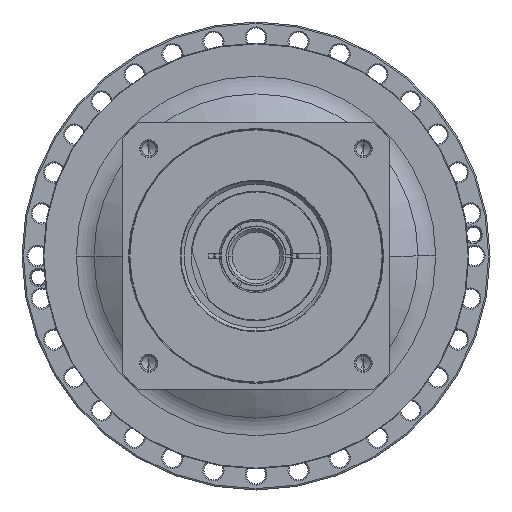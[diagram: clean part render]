
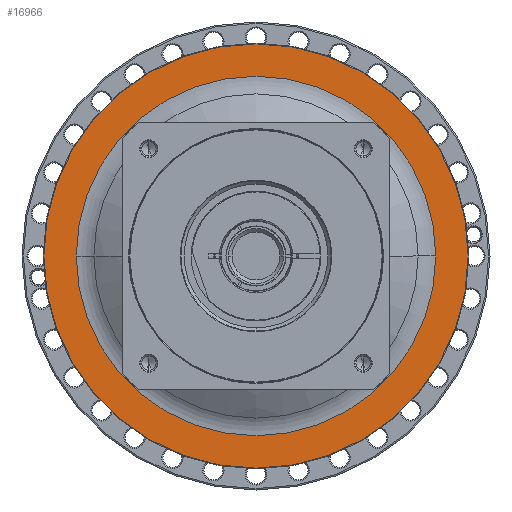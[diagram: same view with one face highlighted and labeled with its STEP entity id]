
A CAD part, left-side view. The second image highlights one B-rep face of the part: STEP entity #16966.
In plain terms, the highlighted planar face has unit normal (-1, 0, 0) as drawn and (1, 0, 0) by its records, which use the part's own axes.
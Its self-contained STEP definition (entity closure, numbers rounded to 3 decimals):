
#16397=CARTESIAN_POINT('',(-25.,0.,0.));
#16398=DIRECTION('',(-1.,0.,0.));
#16399=DIRECTION('',(0.,-1.,0.));
#16400=AXIS2_PLACEMENT_3D('',#16397,#16398,#16399);
#16402=CARTESIAN_POINT('',(-25.,0.,0.));
#16403=DIRECTION('',(-1.,0.,0.));
#16404=DIRECTION('',(0.,1.,0.));
#16405=AXIS2_PLACEMENT_3D('',#16402,#16403,#16404);
#16407=CARTESIAN_POINT('',(-25.,0.,0.));
#16408=DIRECTION('',(1.,0.,0.));
#16409=DIRECTION('',(0.,1.,0.));
#16410=AXIS2_PLACEMENT_3D('',#16407,#16408,#16409);
#16417=CARTESIAN_POINT('',(-25.,0.,0.));
#16418=DIRECTION('',(-1.,0.,0.));
#16419=DIRECTION('',(0.,1.,0.));
#16420=AXIS2_PLACEMENT_3D('',#16417,#16418,#16419);
#16521=CARTESIAN_POINT('',(-25.,-150.5,0.));
#16522=CARTESIAN_POINT('',(-25.,150.5,0.));
#16523=VERTEX_POINT('',#16521);
#16524=VERTEX_POINT('',#16522);
#16549=CARTESIAN_POINT('',(-25.,127.5,0.));
#16551=VERTEX_POINT('',#16549);
#16553=CARTESIAN_POINT('',(-25.,-127.5,0.));
#16555=VERTEX_POINT('',#16553);
#16951=CARTESIAN_POINT('',(-25.,0.,0.));
#16952=DIRECTION('',(1.,0.,0.));
#16953=DIRECTION('',(0.,-1.,0.));
#16954=AXIS2_PLACEMENT_3D('',#16951,#16952,#16953);
#16955=PLANE('',#16954);
#16956=ORIENTED_EDGE('',*,*,#16892,.T.);
#16957=ORIENTED_EDGE('',*,*,#16907,.T.);
#16958=EDGE_LOOP('',(#16956,#16957));
#16959=FACE_OUTER_BOUND('',#16958,.F.);
#16961=ORIENTED_EDGE('',*,*,#16960,.T.);
#16963=ORIENTED_EDGE('',*,*,#16962,.F.);
#16964=EDGE_LOOP('',(#16961,#16963));
#16965=FACE_BOUND('',#16964,.F.);
#16966=ADVANCED_FACE('',(#16959,#16965),#16955,.T.);
#16401=CIRCLE('',#16400,150.5);
#16406=CIRCLE('',#16405,150.5);
#16411=CIRCLE('',#16410,127.5);
#16421=CIRCLE('',#16420,127.5);
#16892=EDGE_CURVE('',#16523,#16524,#16401,.T.);
#16907=EDGE_CURVE('',#16524,#16523,#16406,.T.);
#16960=EDGE_CURVE('',#16551,#16555,#16411,.T.);
#16962=EDGE_CURVE('',#16551,#16555,#16421,.T.);
